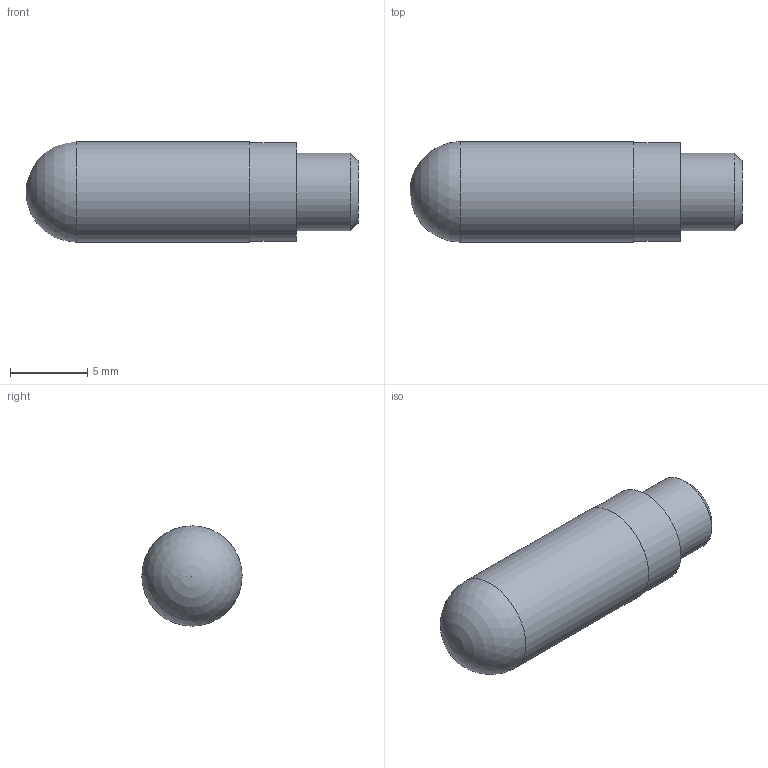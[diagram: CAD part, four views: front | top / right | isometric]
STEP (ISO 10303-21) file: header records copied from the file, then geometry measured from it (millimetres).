
FILE_DESCRIPTION(/* description */ ('STEP AP203'),/* implementation_level */ '2;1');
FILE_NAME(/* name */ '2928 M5',/* time_stamp */ '2023-04-06T14:59:26+02:00',/* author */ ('License CC BY-ND 4.0'),/* organization */ ('CADENAS'),/* preprocessor_version */ 'ST-DEVELOPER v19.3',/* originating_system */ 'PARTsolutions',/* authorisation */ ' ');
FILE_SCHEMA (('CONFIG_CONTROL_DESIGN','PROCESS_PLANNING_SCHEMA'));
Length unit declared in the file: millimetre
Products named in the file (1): 2928 M5
Bounding box: 21.5 x 6.5 x 6.5 mm (x, y, z)
Volume: 618.5 mm3; surface area: 447.6 mm2
Topology: 1 solids, 1 shells, 8 faces, 13 edges, 8 vertices
Faces by surface type: cylinder 3, plane 3, sphere 1, cone 1
Full cylindrical faces by diameter (mm): 5 x1, 6.4 x1, 6.5 x1
Entity records: 184 total; most frequent: DIRECTION 32, CARTESIAN_POINT 23, AXIS2_PLACEMENT_3D 16, ORIENTED_EDGE 14, EDGE_LOOP 14, FACE_BOUND 14, ADVANCED_FACE 8, EDGE_CURVE 7
